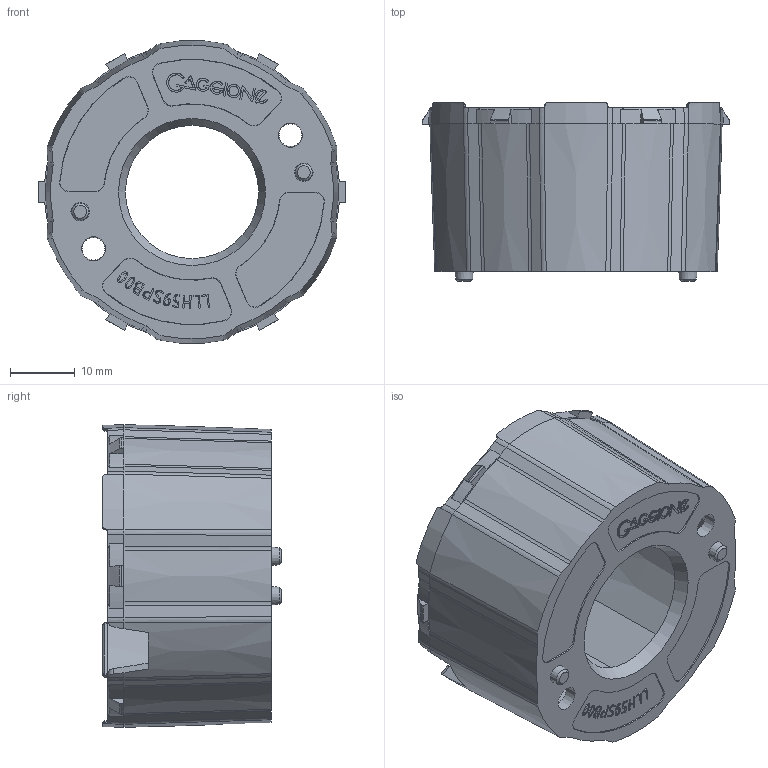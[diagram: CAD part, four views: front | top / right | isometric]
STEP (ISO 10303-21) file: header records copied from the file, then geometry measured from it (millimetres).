
FILE_DESCRIPTION(('STEP AP214'),'1');
FILE_NAME('LLH59SPC00.stp','2017-10-09T14:53:05',(' '),(' '),'Spatial InterOp 3D',' ',' ');
FILE_SCHEMA(('AUTOMOTIVE_DESIGN { 1 0 10303 214 1 1 1 1 }'));
Length unit declared in the file: millimetre
Products named in the file (1): LNL HOLDER 59 TRAN H0
Bounding box: 47.38 x 27.45 x 46.61 mm (x, y, z)
Volume: 6797.3 mm3; surface area: 9354.7 mm2
Topology: 1 solids, 1 shells, 979 faces, 2777 edges, 1831 vertices
Faces by surface type: cylinder 444, plane 204, extrusion 175, cone 79, bspline 56, torus 11, sphere 10
Entity records: 42285 total; most frequent: CARTESIAN_POINT 9562, ORIENTED_EDGE 5530, DIRECTION 4832, EDGE_CURVE 2765, VERTEX_POINT 1826, AXIS2_PLACEMENT_3D 1815, VECTOR 1202, LINE 1027
